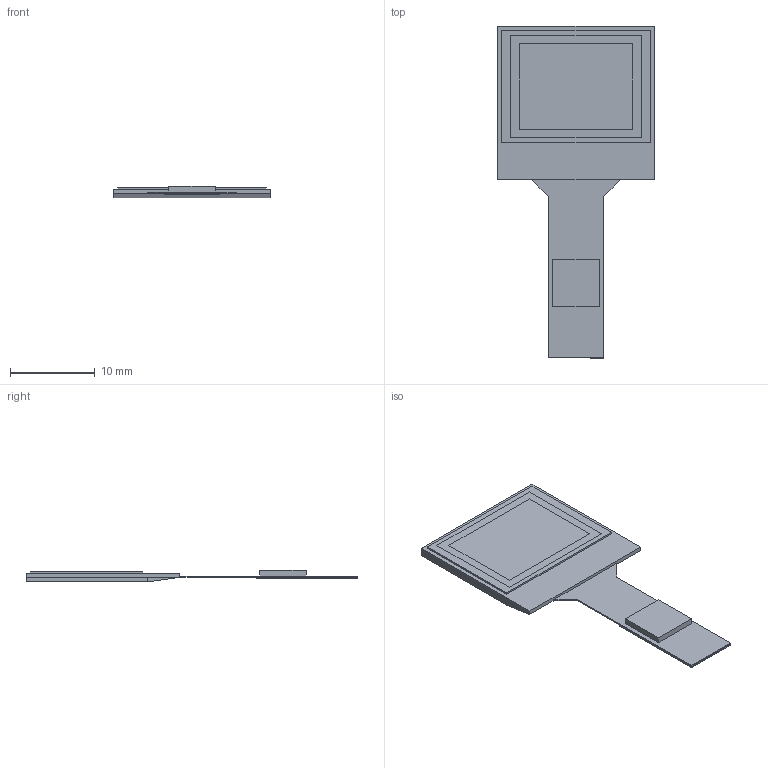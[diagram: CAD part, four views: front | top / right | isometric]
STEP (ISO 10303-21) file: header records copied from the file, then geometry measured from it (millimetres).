
FILE_DESCRIPTION (( 'STEP AP214' ), '1' );
FILE_NAME ('CFAL6448A-066BW_Straight_Tail.STEP', '2019-07-18T22:35:50', ( '' ), ( '' ), 'SwSTEP 2.0', 'SolidWorks 2015', '' );
FILE_SCHEMA (( 'AUTOMOTIVE_DESIGN' ));
Length unit declared in the file: millimetre
Products named in the file (1): CFAL6448A-066BW_Straight_Tail
Bounding box: 18.46 x 39.1 x 1.4 mm (x, y, z)
Volume: 433.9 mm3; surface area: 2364.7 mm2
Topology: 6 solids, 6 shells, 44 faces, 95 edges, 66 vertices
Faces by surface type: plane 44
Entity records: 1691 total; most frequent: CARTESIAN_POINT 206, ORIENTED_EDGE 190, DIRECTION 185, LINE 95, EDGE_CURVE 95, VECTOR 95, VERTEX_POINT 66, EDGE_LOOP 47
